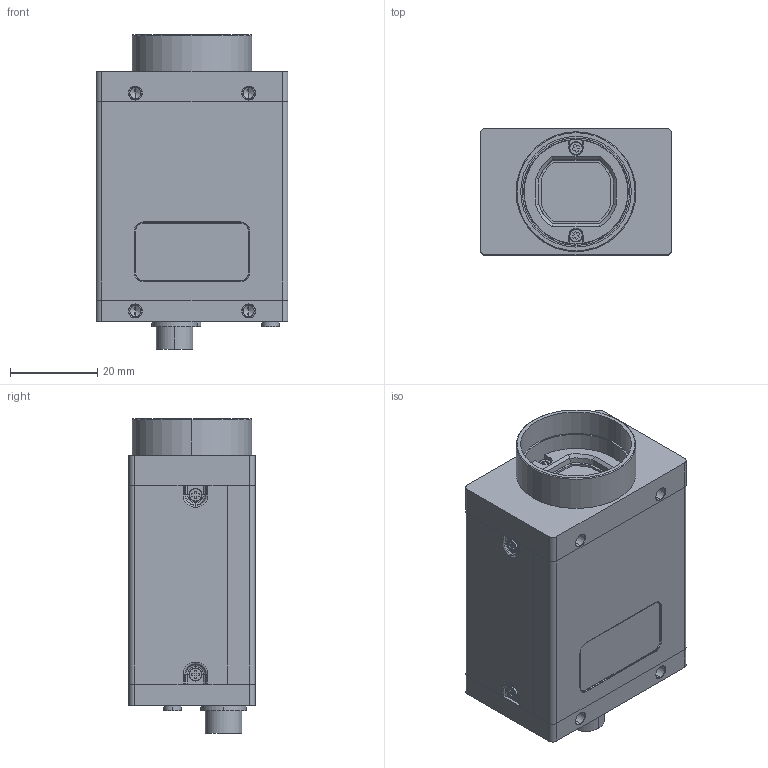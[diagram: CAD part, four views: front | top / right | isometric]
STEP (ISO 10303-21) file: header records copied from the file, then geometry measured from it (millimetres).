
FILE_DESCRIPTION (( 'STEP AP203' ), '1' );
FILE_NAME ('GSR-004-R0.STEP', '2013-12-20T21:44:53', ( 'Gus' ), ( '' ), 'SwSTEP 2.0', 'SolidWorks 2014', '' );
FILE_SCHEMA (( 'CONFIG_CONTROL_DESIGN' ));
Length unit declared in the file: millimetre
Products named in the file (1): GSR-004-R0
Bounding box: 44 x 29 x 72.2 mm (x, y, z)
Volume: 72712.5 mm3; surface area: 13660.9 mm2
Topology: 1 solids, 1 shells, 469 faces, 1151 edges, 714 vertices
Faces by surface type: plane 221, cylinder 137, cone 62, torus 48, sphere 1
Entity records: 13721 total; most frequent: DIRECTION 2474, CARTESIAN_POINT 2374, ORIENTED_EDGE 2264, EDGE_CURVE 1132, AXIS2_PLACEMENT_3D 892, VERTEX_POINT 712, LINE 690, VECTOR 690
